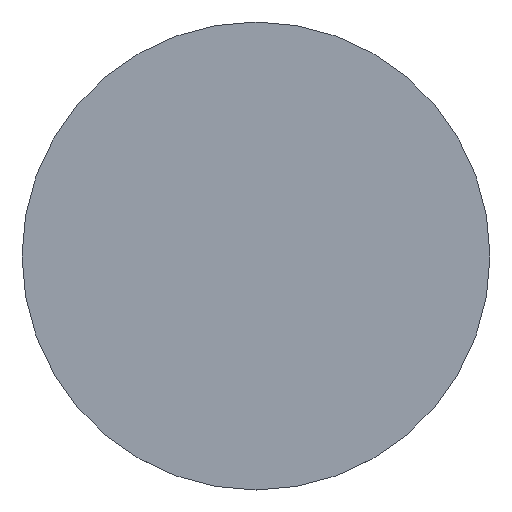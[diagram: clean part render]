
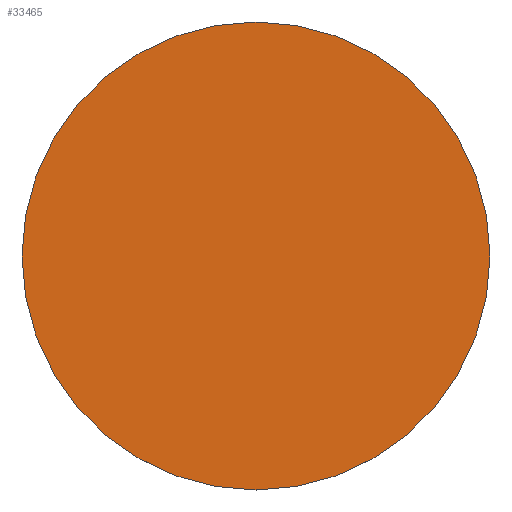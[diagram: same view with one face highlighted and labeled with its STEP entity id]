
A CAD part, top view. The second image highlights one B-rep face of the part: STEP entity #33465.
In plain terms, the highlighted planar face has unit normal (0, 0, 1).
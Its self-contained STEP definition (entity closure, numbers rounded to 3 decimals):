
#103 = DIRECTION ( 'NONE',  ( -1., 0., 0. ) ) ;
#3152 = CARTESIAN_POINT ( 'NONE',  ( -66.769, -58.164, 218.5 ) ) ;
#10344 = FACE_OUTER_BOUND ( 'NONE', #77140, .T. ) ;
#22421 = AXIS2_PLACEMENT_3D ( 'NONE', #3152, #33936, #42103 ) ;
#26250 = CARTESIAN_POINT ( 'NONE',  ( -66.769, -9.164, 218.5 ) ) ;
#29618 = VERTEX_POINT ( 'NONE', #54900 ) ;
#31039 = CIRCLE ( 'NONE', #88361, 110. ) ;
#33465 = ADVANCED_FACE ( 'NONE', ( #10344 ), #64722, .T. ) ;
#33936 = DIRECTION ( 'NONE',  ( 0., 0., 1. ) ) ;
#37718 = CIRCLE ( 'NONE', #73818, 110. ) ;
#42103 = DIRECTION ( 'NONE',  ( 1., 0., 0. ) ) ;
#42617 = DIRECTION ( 'NONE',  ( -1., 0., 0. ) ) ;
#54900 = CARTESIAN_POINT ( 'NONE',  ( -176.769, -9.164, 218.5 ) ) ;
#64722 = PLANE ( 'NONE',  #22421 ) ;
#67066 = EDGE_CURVE ( 'NONE', #29618, #79326, #31039, .T. ) ;
#73818 = AXIS2_PLACEMENT_3D ( 'NONE', #78064, #86282, #103 ) ;
#77140 = EDGE_LOOP ( 'NONE', ( #84119, #83756 ) ) ;
#78064 = CARTESIAN_POINT ( 'NONE',  ( -66.769, -9.164, 218.5 ) ) ;
#79326 = VERTEX_POINT ( 'NONE', #92287 ) ;
#83756 = ORIENTED_EDGE ( 'NONE', *, *, #89739, .F. ) ;
#84119 = ORIENTED_EDGE ( 'NONE', *, *, #67066, .F. ) ;
#86282 = DIRECTION ( 'NONE',  ( 0., 0., -1. ) ) ;
#88361 = AXIS2_PLACEMENT_3D ( 'NONE', #26250, #95493, #42617 ) ;
#89739 = EDGE_CURVE ( 'NONE', #79326, #29618, #37718, .T. ) ;
#92287 = CARTESIAN_POINT ( 'NONE',  ( 43.231, -9.164, 218.5 ) ) ;
#95493 = DIRECTION ( 'NONE',  ( 0., 0., -1. ) ) ;
